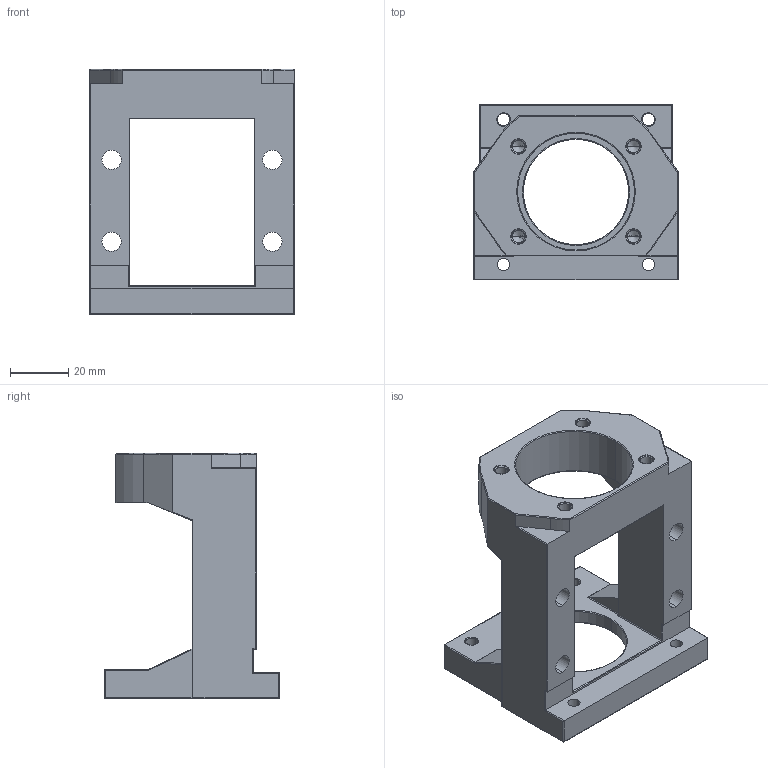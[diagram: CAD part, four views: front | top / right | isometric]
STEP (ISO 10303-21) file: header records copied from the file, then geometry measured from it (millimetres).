
FILE_DESCRIPTION (( 'STEP AP203' ), '1' );
FILE_NAME ('自化件傳動座外MBL15-D本體.STEP', '2018-12-27T08:36:32', ( '' ), ( '' ), 'SwSTEP 2.0', 'SolidWorks 2018', '' );
FILE_SCHEMA (( 'CONFIG_CONTROL_DESIGN' ));
Length unit declared in the file: millimetre
Products named in the file (1): 自化件傳動座外MBL15-D本體
Bounding box: 70 x 60 x 84 mm (x, y, z)
Volume: 86629.8 mm3; surface area: 29109.4 mm2
Topology: 1 solids, 1 shells, 212 faces, 503 edges, 282 vertices
Faces by surface type: cylinder 97, plane 39, torus 38, cone 24, sphere 12, bspline 2
Entity records: 6208 total; most frequent: CARTESIAN_POINT 1294, DIRECTION 1083, ORIENTED_EDGE 970, EDGE_CURVE 485, AXIS2_PLACEMENT_3D 431, VERTEX_POINT 282, EDGE_LOOP 241, VECTOR 221
